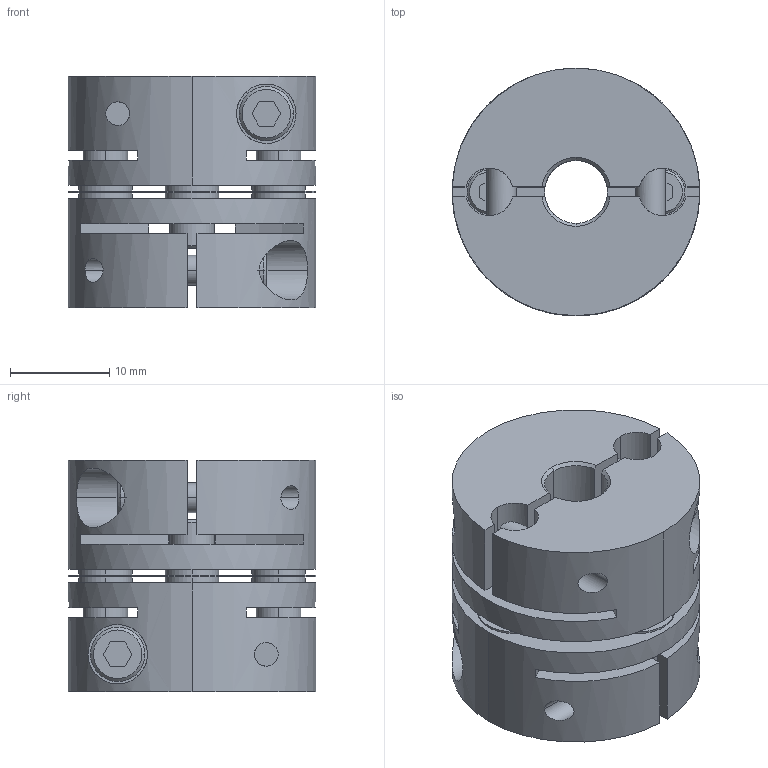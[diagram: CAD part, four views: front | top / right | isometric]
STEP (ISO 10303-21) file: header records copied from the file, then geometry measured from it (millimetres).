
FILE_DESCRIPTION((''),'2;1');
FILE_NAME('LAS-25C-6.35×10.stp','2011-08-10T10:23:57',(''),(''),'AutoCAD STEP 2000i','AutoCAD 2000i',', , ');
FILE_SCHEMA(('CONFIG_CONTROL_DESIGN'));
Length unit declared in the file: millimetre
Products named in the file (5): LAS-25C-6×6; 忣兜1; LA-2502-D06-1; LA-2502-D06; LAS25-ITA
Assembly tree (4 placements, depth 2):
  LAS-25C-6×6
    忣兜1
    LA-2502-D06-1
    LA-2502-D06
    LAS25-ITA
Bounding box: 25 x 25 x 23.4 mm (x, y, z)
Volume: 8338 mm3; surface area: 6830.7 mm2
Topology: 1 solids, 1 shells, 244 faces, 648 edges, 424 vertices
Faces by surface type: plane 112, cylinder 104, cone 28
Entity records: 8499 total; most frequent: CARTESIAN_POINT 2121, DIRECTION 1326, ORIENTED_EDGE 1296, EDGE_CURVE 648, AXIS2_PLACEMENT_3D 485, VERTEX_POINT 424, VECTOR 356, LINE 356
